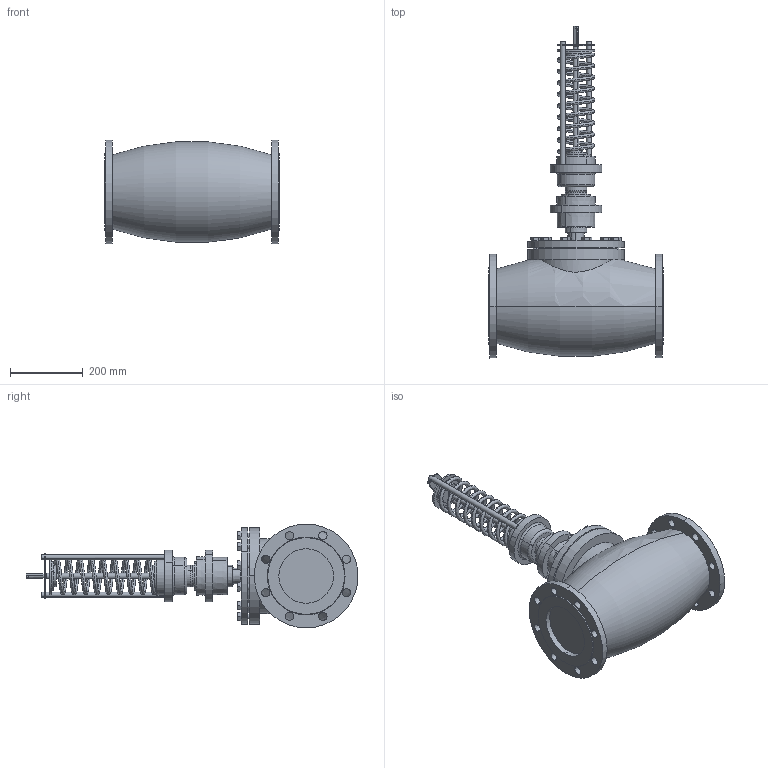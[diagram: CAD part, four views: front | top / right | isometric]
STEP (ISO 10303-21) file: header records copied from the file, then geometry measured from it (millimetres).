
FILE_DESCRIPTION (( 'STEP AP214' ), '1' );
FILE_NAME ('RDT, RDT-P DN-150 (0.1).STEP', '2025-12-12T07:30:29', ( '' ), ( '' ), 'SwSTEP 2.0', 'SolidWorks 2023', '' );
FILE_SCHEMA (( 'AUTOMOTIVE_DESIGN' ));
Length unit declared in the file: millimetre
Products named in the file (5): RDT DN-150(______).stp; RDT, RDT-P DN-150 (0.1); RDT, RDT-P DN-150 (0.1).stp; RDT___ DN-125-150(0.1)_1.stp; Деталь51^RDT, RDT-P DN-150 (0.1)
Assembly tree (4 placements, depth 3):
  RDT, RDT-P DN-150 (0.1)
    RDT, RDT-P DN-150 (0.1).stp
      RDT___ DN-125-150(0.1)_1.stp
      RDT DN-150(______).stp
    Деталь51^RDT, RDT-P DN-150 (0.1)
Bounding box: 480.01 x 912.51 x 285 mm (x, y, z)
Volume: 29281002.9 mm3; surface area: 1046270.6 mm2
Topology: 4 solids, 4 shells, 321 faces, 788 edges, 508 vertices
Faces by surface type: plane 136, cylinder 123, cone 43, torus 12, bspline 7
Entity records: 14281 total; most frequent: CARTESIAN_POINT 6201, DIRECTION 1731, ORIENTED_EDGE 1572, EDGE_CURVE 786, AXIS2_PLACEMENT_3D 651, VERTEX_POINT 508, LINE 429, VECTOR 429
